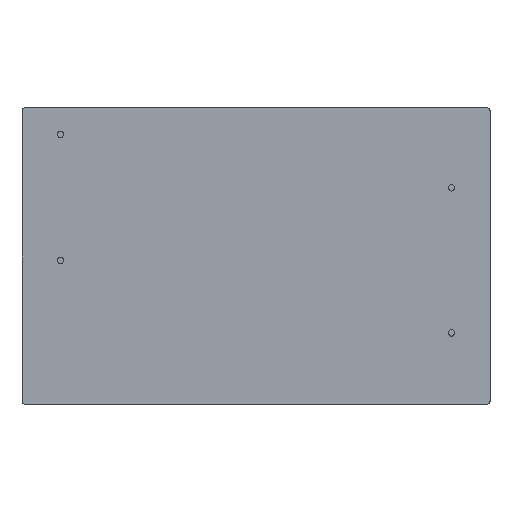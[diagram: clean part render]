
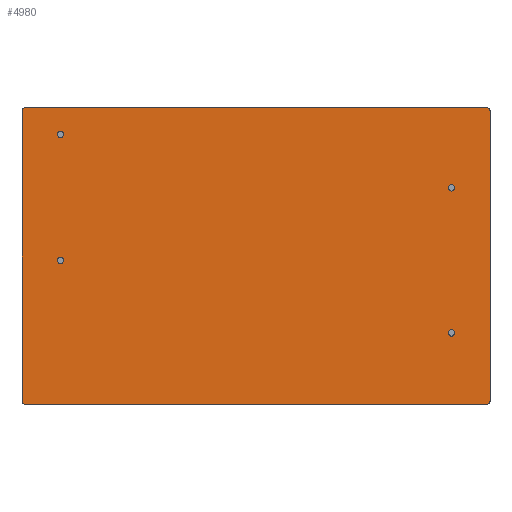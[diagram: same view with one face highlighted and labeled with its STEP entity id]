
A CAD part, front view. The second image highlights one B-rep face of the part: STEP entity #4980.
In plain terms, the highlighted planar face has unit normal (0, -1, 0).
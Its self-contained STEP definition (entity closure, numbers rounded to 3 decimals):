
#5 = CARTESIAN_POINT ( 'NONE',  ( 36.6, 0., 23. ) ) ;
#139 = DIRECTION ( 'NONE',  ( 0., 0., -1. ) ) ;
#344 = CARTESIAN_POINT ( 'NONE',  ( -31., 0., -0.7 ) ) ;
#473 = DIRECTION ( 'NONE',  ( 0., -1., 0. ) ) ;
#681 = EDGE_CURVE ( 'NONE', #10615, #16069, #5711, .T. ) ;
#704 = CARTESIAN_POINT ( 'NONE',  ( 36.6, 0., 23.5 ) ) ;
#967 = AXIS2_PLACEMENT_3D ( 'NONE', #20113, #473, #15594 ) ;
#1120 = VECTOR ( 'NONE', #24123, 1000. ) ;
#1221 = EDGE_LOOP ( 'NONE', ( #6305, #20789, #23424, #6574, #21284, #17007, #23140, #18306 ) ) ;
#1236 = EDGE_CURVE ( 'NONE', #2128, #6749, #6870, .T. ) ;
#1280 = CARTESIAN_POINT ( 'NONE',  ( -31., 0., 19.8 ) ) ;
#1624 = VECTOR ( 'NONE', #15617, 1000. ) ;
#1651 = EDGE_LOOP ( 'NONE', ( #6414, #18825 ) ) ;
#1693 = CARTESIAN_POINT ( 'NONE',  ( 37.1, 0., 23.5 ) ) ;
#1816 = VERTEX_POINT ( 'NONE', #8723 ) ;
#1962 = DIRECTION ( 'NONE',  ( 0., 0., -1. ) ) ;
#2100 = DIRECTION ( 'NONE',  ( 0., -1., 0. ) ) ;
#2128 = VERTEX_POINT ( 'NONE', #4989 ) ;
#2597 = DIRECTION ( 'NONE',  ( 0., 0., -1. ) ) ;
#2649 = DIRECTION ( 'NONE',  ( 1., 0., 0. ) ) ;
#2764 = EDGE_CURVE ( 'NONE', #1816, #3924, #20216, .T. ) ;
#2839 = CIRCLE ( 'NONE', #23822, 0.5 ) ;
#3185 = CIRCLE ( 'NONE', #18436, 0.5 ) ;
#3507 = DIRECTION ( 'NONE',  ( 0., 0., -1. ) ) ;
#3616 = DIRECTION ( 'NONE',  ( 0., 0., -1. ) ) ;
#3924 = VERTEX_POINT ( 'NONE', #11576 ) ;
#4637 = CIRCLE ( 'NONE', #17605, 0.5 ) ;
#4899 = ORIENTED_EDGE ( 'NONE', *, *, #18434, .F. ) ;
#4980 = ADVANCED_FACE ( 'NONE', ( #11985, #5495, #20633, #14102, #22178 ), #22590, .T. ) ;
#4989 = CARTESIAN_POINT ( 'NONE',  ( 31., 0., 10.3 ) ) ;
#5495 = FACE_BOUND ( 'NONE', #20108, .T. ) ;
#5512 = CIRCLE ( 'NONE', #17214, 0.5 ) ;
#5711 = LINE ( 'NONE', #1693, #6617 ) ;
#6305 = ORIENTED_EDGE ( 'NONE', *, *, #9833, .F. ) ;
#6414 = ORIENTED_EDGE ( 'NONE', *, *, #16359, .F. ) ;
#6574 = ORIENTED_EDGE ( 'NONE', *, *, #24406, .T. ) ;
#6617 = VECTOR ( 'NONE', #3616, 1000. ) ;
#6631 = VERTEX_POINT ( 'NONE', #27622 ) ;
#6700 = AXIS2_PLACEMENT_3D ( 'NONE', #17246, #2100, #10655 ) ;
#6749 = VERTEX_POINT ( 'NONE', #9010 ) ;
#6870 = CIRCLE ( 'NONE', #14067, 0.5 ) ;
#6944 = VERTEX_POINT ( 'NONE', #704 ) ;
#6979 = CARTESIAN_POINT ( 'NONE',  ( 31., 0., 10.8 ) ) ;
#7040 = DIRECTION ( 'NONE',  ( 0., -1., 0. ) ) ;
#7084 = LINE ( 'NONE', #15652, #1120 ) ;
#7288 = AXIS2_PLACEMENT_3D ( 'NONE', #16220, #14132, #10198 ) ;
#7508 = CARTESIAN_POINT ( 'NONE',  ( 37.1, 0., 23. ) ) ;
#7874 = DIRECTION ( 'NONE',  ( 0., 0., -1. ) ) ;
#8132 = EDGE_CURVE ( 'NONE', #8764, #14331, #26070, .T. ) ;
#8150 = VERTEX_POINT ( 'NONE', #26069 ) ;
#8409 = DIRECTION ( 'NONE',  ( 0., -1., 0. ) ) ;
#8463 = DIRECTION ( 'NONE',  ( 0., 0., -1. ) ) ;
#8466 = CARTESIAN_POINT ( 'NONE',  ( 31., 0., -11.7 ) ) ;
#8528 = DIRECTION ( 'NONE',  ( 0., -1., 0. ) ) ;
#8585 = EDGE_CURVE ( 'NONE', #14331, #8764, #4637, .T. ) ;
#8695 = LINE ( 'NONE', #10951, #19306 ) ;
#8723 = CARTESIAN_POINT ( 'NONE',  ( -37.1, 0., -23. ) ) ;
#8764 = VERTEX_POINT ( 'NONE', #10962 ) ;
#8791 = AXIS2_PLACEMENT_3D ( 'NONE', #17843, #7040, #13654 ) ;
#9010 = CARTESIAN_POINT ( 'NONE',  ( 31., 0., 11.3 ) ) ;
#9444 = CARTESIAN_POINT ( 'NONE',  ( -31., 0., 19.3 ) ) ;
#9446 = CARTESIAN_POINT ( 'NONE',  ( 36.6, 0., -23.5 ) ) ;
#9833 = EDGE_CURVE ( 'NONE', #24261, #6631, #7084, .T. ) ;
#10198 = DIRECTION ( 'NONE',  ( 0., 0., -1. ) ) ;
#10310 = AXIS2_PLACEMENT_3D ( 'NONE', #5, #8528, #17101 ) ;
#10615 = VERTEX_POINT ( 'NONE', #7508 ) ;
#10655 = DIRECTION ( 'NONE',  ( 0., 0., -1. ) ) ;
#10698 = EDGE_CURVE ( 'NONE', #11166, #12643, #15390, .T. ) ;
#10951 = CARTESIAN_POINT ( 'NONE',  ( -37.1, 0., 23.5 ) ) ;
#10962 = CARTESIAN_POINT ( 'NONE',  ( -31., 0., 18.8 ) ) ;
#10987 = DIRECTION ( 'NONE',  ( 0., 0., -1. ) ) ;
#11166 = VERTEX_POINT ( 'NONE', #18481 ) ;
#11576 = CARTESIAN_POINT ( 'NONE',  ( -37.1, 0., 23. ) ) ;
#11985 = FACE_BOUND ( 'NONE', #1651, .T. ) ;
#12643 = VERTEX_POINT ( 'NONE', #8466 ) ;
#13049 = CIRCLE ( 'NONE', #967, 0.5 ) ;
#13292 = CIRCLE ( 'NONE', #8791, 0.5 ) ;
#13431 = EDGE_CURVE ( 'NONE', #24261, #16069, #13292, .T. ) ;
#13654 = DIRECTION ( 'NONE',  ( 0., 0., -1. ) ) ;
#13697 = EDGE_CURVE ( 'NONE', #19247, #8150, #22602, .T. ) ;
#13785 = DIRECTION ( 'NONE',  ( 0., -1., 0. ) ) ;
#14058 = EDGE_LOOP ( 'NONE', ( #18397, #17419 ) ) ;
#14067 = AXIS2_PLACEMENT_3D ( 'NONE', #6979, #15551, #19208 ) ;
#14102 = FACE_BOUND ( 'NONE', #14634, .T. ) ;
#14132 = DIRECTION ( 'NONE',  ( 0., -1., 0. ) ) ;
#14331 = VERTEX_POINT ( 'NONE', #1280 ) ;
#14634 = EDGE_LOOP ( 'NONE', ( #15192, #15057 ) ) ;
#14667 = DIRECTION ( 'NONE',  ( 0., -1., 0. ) ) ;
#15057 = ORIENTED_EDGE ( 'NONE', *, *, #8132, .F. ) ;
#15180 = CARTESIAN_POINT ( 'NONE',  ( -31., 0., -0.2 ) ) ;
#15192 = ORIENTED_EDGE ( 'NONE', *, *, #8585, .F. ) ;
#15390 = CIRCLE ( 'NONE', #7288, 0.5 ) ;
#15470 = DIRECTION ( 'NONE',  ( 0., -1., 0. ) ) ;
#15551 = DIRECTION ( 'NONE',  ( 0., -1., 0. ) ) ;
#15594 = DIRECTION ( 'NONE',  ( 0., 0., -1. ) ) ;
#15617 = DIRECTION ( 'NONE',  ( 0., 0., 1. ) ) ;
#15652 = CARTESIAN_POINT ( 'NONE',  ( -37.1, 0., -23.5 ) ) ;
#16069 = VERTEX_POINT ( 'NONE', #18282 ) ;
#16220 = CARTESIAN_POINT ( 'NONE',  ( 31., 0., -12.2 ) ) ;
#16359 = EDGE_CURVE ( 'NONE', #12643, #11166, #3185, .T. ) ;
#16544 = EDGE_CURVE ( 'NONE', #22418, #6944, #8695, .T. ) ;
#16797 = CARTESIAN_POINT ( 'NONE',  ( -36.6, 0., 23.5 ) ) ;
#17007 = ORIENTED_EDGE ( 'NONE', *, *, #18328, .T. ) ;
#17101 = DIRECTION ( 'NONE',  ( 0., 0., -1. ) ) ;
#17214 = AXIS2_PLACEMENT_3D ( 'NONE', #17392, #23621, #139 ) ;
#17246 = CARTESIAN_POINT ( 'NONE',  ( -36.6, 0., -23. ) ) ;
#17392 = CARTESIAN_POINT ( 'NONE',  ( 31., 0., 10.8 ) ) ;
#17411 = ORIENTED_EDGE ( 'NONE', *, *, #1236, .F. ) ;
#17419 = ORIENTED_EDGE ( 'NONE', *, *, #25382, .F. ) ;
#17605 = AXIS2_PLACEMENT_3D ( 'NONE', #18538, #18674, #7874 ) ;
#17843 = CARTESIAN_POINT ( 'NONE',  ( 36.6, 0., -23. ) ) ;
#18282 = CARTESIAN_POINT ( 'NONE',  ( 37.1, 0., -23. ) ) ;
#18306 = ORIENTED_EDGE ( 'NONE', *, *, #24403, .T. ) ;
#18328 = EDGE_CURVE ( 'NONE', #22418, #3924, #2839, .T. ) ;
#18397 = ORIENTED_EDGE ( 'NONE', *, *, #13697, .F. ) ;
#18434 = EDGE_CURVE ( 'NONE', #6749, #2128, #5512, .T. ) ;
#18436 = AXIS2_PLACEMENT_3D ( 'NONE', #22686, #13785, #3507 ) ;
#18481 = CARTESIAN_POINT ( 'NONE',  ( 31., 0., -12.7 ) ) ;
#18538 = CARTESIAN_POINT ( 'NONE',  ( -31., 0., 19.3 ) ) ;
#18674 = DIRECTION ( 'NONE',  ( 0., -1., 0. ) ) ;
#18800 = CIRCLE ( 'NONE', #6700, 0.5 ) ;
#18825 = ORIENTED_EDGE ( 'NONE', *, *, #10698, .F. ) ;
#19208 = DIRECTION ( 'NONE',  ( 0., 0., -1. ) ) ;
#19247 = VERTEX_POINT ( 'NONE', #15180 ) ;
#19306 = VECTOR ( 'NONE', #2649, 1000. ) ;
#19943 = CARTESIAN_POINT ( 'NONE',  ( -37.1, 0., 23.5 ) ) ;
#20108 = EDGE_LOOP ( 'NONE', ( #4899, #17411 ) ) ;
#20113 = CARTESIAN_POINT ( 'NONE',  ( -31., 0., -0.7 ) ) ;
#20216 = LINE ( 'NONE', #19943, #1624 ) ;
#20633 = FACE_BOUND ( 'NONE', #14058, .T. ) ;
#20769 = CARTESIAN_POINT ( 'NONE',  ( 0., 0., 0. ) ) ;
#20789 = ORIENTED_EDGE ( 'NONE', *, *, #13431, .T. ) ;
#20919 = AXIS2_PLACEMENT_3D ( 'NONE', #20769, #14667, #8463 ) ;
#20974 = CARTESIAN_POINT ( 'NONE',  ( -36.6, 0., 23. ) ) ;
#21284 = ORIENTED_EDGE ( 'NONE', *, *, #16544, .F. ) ;
#22178 = FACE_OUTER_BOUND ( 'NONE', #1221, .T. ) ;
#22418 = VERTEX_POINT ( 'NONE', #16797 ) ;
#22590 = PLANE ( 'NONE',  #20919 ) ;
#22602 = CIRCLE ( 'NONE', #23969, 0.5 ) ;
#22686 = CARTESIAN_POINT ( 'NONE',  ( 31., 0., -12.2 ) ) ;
#23140 = ORIENTED_EDGE ( 'NONE', *, *, #2764, .F. ) ;
#23424 = ORIENTED_EDGE ( 'NONE', *, *, #681, .F. ) ;
#23621 = DIRECTION ( 'NONE',  ( 0., -1., 0. ) ) ;
#23822 = AXIS2_PLACEMENT_3D ( 'NONE', #20974, #8409, #1962 ) ;
#23969 = AXIS2_PLACEMENT_3D ( 'NONE', #344, #15470, #10987 ) ;
#24123 = DIRECTION ( 'NONE',  ( -1., 0., 0. ) ) ;
#24261 = VERTEX_POINT ( 'NONE', #9446 ) ;
#24403 = EDGE_CURVE ( 'NONE', #1816, #6631, #18800, .T. ) ;
#24406 = EDGE_CURVE ( 'NONE', #10615, #6944, #25460, .T. ) ;
#25382 = EDGE_CURVE ( 'NONE', #8150, #19247, #13049, .T. ) ;
#25460 = CIRCLE ( 'NONE', #10310, 0.5 ) ;
#26069 = CARTESIAN_POINT ( 'NONE',  ( -31., 0., -1.2 ) ) ;
#26070 = CIRCLE ( 'NONE', #27393, 0.5 ) ;
#26340 = DIRECTION ( 'NONE',  ( 0., -1., 0. ) ) ;
#27393 = AXIS2_PLACEMENT_3D ( 'NONE', #9444, #26340, #2597 ) ;
#27622 = CARTESIAN_POINT ( 'NONE',  ( -36.6, 0., -23.5 ) ) ;
